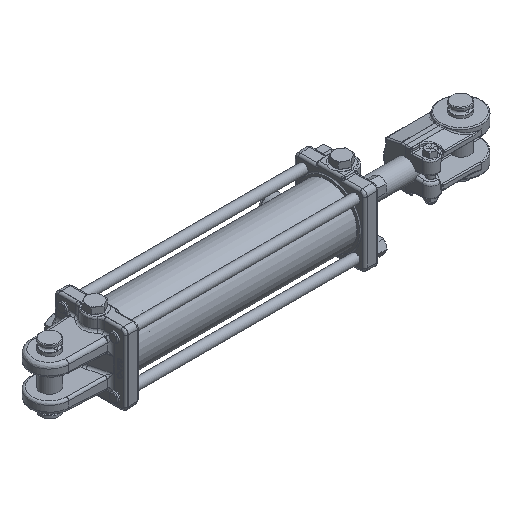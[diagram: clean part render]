
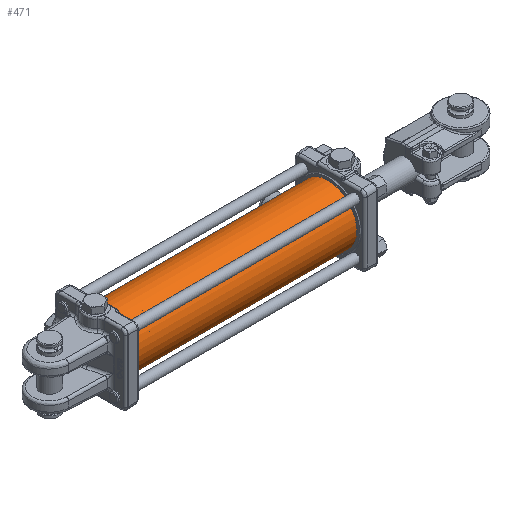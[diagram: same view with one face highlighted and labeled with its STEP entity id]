
A CAD part, isometric view. The second image highlights one B-rep face of the part: STEP entity #471.
In plain terms, the highlighted cylindrical face has radius 39.688 mm (diameter 79.375 mm), a full revolution.
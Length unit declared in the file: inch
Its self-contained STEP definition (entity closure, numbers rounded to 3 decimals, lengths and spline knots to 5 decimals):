
#210=CARTESIAN_POINT('',(-0.842,1.56155,0.0545));
#211=VERTEX_POINT('',#210);
#212=CARTESIAN_POINT('',(-0.842,1.56155,0.0545));
#213=CARTESIAN_POINT('',(-0.84884,1.56155,0.0545));
#214=CARTESIAN_POINT('',(-0.85614,1.5616,0.05313));
#215=CARTESIAN_POINT('',(-0.86957,1.56178,0.04757));
#216=CARTESIAN_POINT('',(-0.8757,1.56191,0.04338));
#217=CARTESIAN_POINT('',(-0.88538,1.56214,0.0337));
#218=CARTESIAN_POINT('',(-0.88957,1.56227,0.02757));
#219=CARTESIAN_POINT('',(-0.89513,1.56245,0.01414));
#220=CARTESIAN_POINT('',(-0.8965,1.5625,0.00684));
#221=CARTESIAN_POINT('',(-0.8965,1.5625,-0.00684));
#222=CARTESIAN_POINT('',(-0.89513,1.56245,-0.01414));
#223=CARTESIAN_POINT('',(-0.88957,1.56227,-0.02757));
#224=CARTESIAN_POINT('',(-0.88538,1.56214,-0.0337));
#225=CARTESIAN_POINT('',(-0.8757,1.56191,-0.04338));
#226=CARTESIAN_POINT('',(-0.86957,1.56178,-0.04757));
#227=CARTESIAN_POINT('',(-0.85614,1.5616,-0.05313));
#228=CARTESIAN_POINT('',(-0.84884,1.56155,-0.0545));
#229=CARTESIAN_POINT('',(-0.83516,1.56155,-0.0545));
#230=CARTESIAN_POINT('',(-0.82786,1.5616,-0.05313));
#231=CARTESIAN_POINT('',(-0.81443,1.56178,-0.04757));
#232=CARTESIAN_POINT('',(-0.8083,1.56191,-0.04338));
#233=CARTESIAN_POINT('',(-0.79862,1.56214,-0.0337));
#234=CARTESIAN_POINT('',(-0.79443,1.56227,-0.02757));
#235=CARTESIAN_POINT('',(-0.78887,1.56245,-0.01414));
#236=CARTESIAN_POINT('',(-0.7875,1.5625,-0.00684));
#237=CARTESIAN_POINT('',(-0.7875,1.5625,0.00684));
#238=CARTESIAN_POINT('',(-0.78887,1.56245,0.01414));
#239=CARTESIAN_POINT('',(-0.79443,1.56227,0.02757));
#240=CARTESIAN_POINT('',(-0.79862,1.56214,0.0337));
#241=CARTESIAN_POINT('',(-0.8083,1.56191,0.04338));
#242=CARTESIAN_POINT('',(-0.81443,1.56178,0.04757));
#243=CARTESIAN_POINT('',(-0.82786,1.5616,0.05313));
#244=CARTESIAN_POINT('',(-0.83516,1.56155,0.0545));
#245=CARTESIAN_POINT('',(-0.842,1.56155,0.0545));
#246=B_SPLINE_CURVE_WITH_KNOTS('',3,(#212,#213,#214,#215,#216,#217,#218,#219,#220,#221,#222,#223,#224,#225,#226,#227,#228,#229,#230,#231,#232,#233,#234,#235,#236,#237,#238,#239,#240,#241,#242,#243,#244,#245),.UNSPECIFIED.,.T.,.U.,(4,2,2,2,2,2,2,2,2,2,2,2,2,2,2,2,4),(0.0,0.05215,0.1043,0.15645,0.2086,0.26075,0.3129,0.36504,0.41719,0.46934,0.52149,0.57364,0.62579,0.67794,0.73009,0.78224,0.83439),.UNSPECIFIED.);
#247=EDGE_CURVE('',#211,#211,#246,.T.);
#298=CARTESIAN_POINT('',(-1.222,1.56219,0.031));
#299=VERTEX_POINT('',#298);
#300=CARTESIAN_POINT('',(-1.222,1.56219,0.031));
#301=CARTESIAN_POINT('',(-1.22589,1.56219,0.031));
#302=CARTESIAN_POINT('',(-1.23004,1.56221,0.03022));
#303=CARTESIAN_POINT('',(-1.23768,1.56227,0.02706));
#304=CARTESIAN_POINT('',(-1.24117,1.56231,0.02467));
#305=CARTESIAN_POINT('',(-1.24667,1.56238,0.01917));
#306=CARTESIAN_POINT('',(-1.24906,1.56243,0.01568));
#307=CARTESIAN_POINT('',(-1.25222,1.56248,0.00804));
#308=CARTESIAN_POINT('',(-1.253,1.5625,0.00389));
#309=CARTESIAN_POINT('',(-1.253,1.5625,-0.00389));
#310=CARTESIAN_POINT('',(-1.25222,1.56248,-0.00804));
#311=CARTESIAN_POINT('',(-1.24906,1.56243,-0.01568));
#312=CARTESIAN_POINT('',(-1.24667,1.56238,-0.01917));
#313=CARTESIAN_POINT('',(-1.24117,1.56231,-0.02467));
#314=CARTESIAN_POINT('',(-1.23768,1.56227,-0.02706));
#315=CARTESIAN_POINT('',(-1.23004,1.56221,-0.03022));
#316=CARTESIAN_POINT('',(-1.22589,1.56219,-0.031));
#317=CARTESIAN_POINT('',(-1.21811,1.56219,-0.031));
#318=CARTESIAN_POINT('',(-1.21396,1.56221,-0.03022));
#319=CARTESIAN_POINT('',(-1.20632,1.56227,-0.02706));
#320=CARTESIAN_POINT('',(-1.20283,1.56231,-0.02467));
#321=CARTESIAN_POINT('',(-1.19733,1.56238,-0.01917));
#322=CARTESIAN_POINT('',(-1.19494,1.56243,-0.01568));
#323=CARTESIAN_POINT('',(-1.19178,1.56248,-0.00804));
#324=CARTESIAN_POINT('',(-1.191,1.5625,-0.00389));
#325=CARTESIAN_POINT('',(-1.191,1.5625,0.00389));
#326=CARTESIAN_POINT('',(-1.19178,1.56248,0.00804));
#327=CARTESIAN_POINT('',(-1.19494,1.56243,0.01568));
#328=CARTESIAN_POINT('',(-1.19733,1.56238,0.01917));
#329=CARTESIAN_POINT('',(-1.20283,1.56231,0.02467));
#330=CARTESIAN_POINT('',(-1.20632,1.56227,0.02706));
#331=CARTESIAN_POINT('',(-1.21396,1.56221,0.03022));
#332=CARTESIAN_POINT('',(-1.21811,1.56219,0.031));
#333=CARTESIAN_POINT('',(-1.222,1.56219,0.031));
#334=B_SPLINE_CURVE_WITH_KNOTS('',3,(#300,#301,#302,#303,#304,#305,#306,#307,#308,#309,#310,#311,#312,#313,#314,#315,#316,#317,#318,#319,#320,#321,#322,#323,#324,#325,#326,#327,#328,#329,#330,#331,#332,#333),.UNSPECIFIED.,.T.,.U.,(4,2,2,2,2,2,2,2,2,2,2,2,2,2,2,2,4),(0.0,0.02966,0.05932,0.08898,0.11864,0.14831,0.17797,0.20763,0.23729,0.26695,0.29661,0.32627,0.35593,0.38559,0.41526,0.44492,0.47458),.UNSPECIFIED.);
#335=EDGE_CURVE('',#299,#299,#334,.T.);
#345=CARTESIAN_POINT('',(0.,1.5625,0.0));
#346=VERTEX_POINT('',#345);
#347=CARTESIAN_POINT('',(0.,0.0,0.0));
#348=DIRECTION('',(1.0,0.0,0.0));
#349=DIRECTION('',(0.0,1.0,0.0));
#350=AXIS2_PLACEMENT_3D('',#347,#348,#349);
#351=CIRCLE('',#350,1.5625);
#352=EDGE_CURVE('',#346,#346,#351,.T.);
#439=CARTESIAN_POINT('',(-12.093,1.5625,0.0));
#440=VERTEX_POINT('',#439);
#441=CARTESIAN_POINT('',(-12.093,0.0,0.0));
#442=DIRECTION('',(1.0,0.0,0.0));
#443=DIRECTION('',(0.0,1.0,0.0));
#444=AXIS2_PLACEMENT_3D('',#441,#442,#443);
#445=CIRCLE('',#444,1.5625);
#446=EDGE_CURVE('',#440,#440,#445,.T.);
#454=CARTESIAN_POINT('',(-6.0465,0.0,0.0));
#455=DIRECTION('',(1.0,0.0,0.0));
#456=DIRECTION('',(0.0,1.0,0.0));
#457=AXIS2_PLACEMENT_3D('',#454,#455,#456);
#458=CYLINDRICAL_SURFACE('',#457,1.5625);
#459=ORIENTED_EDGE('',*,*,#352,.F.);
#460=EDGE_LOOP('',(#459));
#461=FACE_OUTER_BOUND('',#460,.T.);
#462=ORIENTED_EDGE('',*,*,#247,.T.);
#463=EDGE_LOOP('',(#462));
#464=FACE_BOUND('',#463,.T.);
#465=ORIENTED_EDGE('',*,*,#335,.T.);
#466=EDGE_LOOP('',(#465));
#467=FACE_BOUND('',#466,.T.);
#468=ORIENTED_EDGE('',*,*,#446,.T.);
#469=EDGE_LOOP('',(#468));
#470=FACE_BOUND('',#469,.T.);
#471=ADVANCED_FACE('',(#461,#464,#467,#470),#458,.T.);
